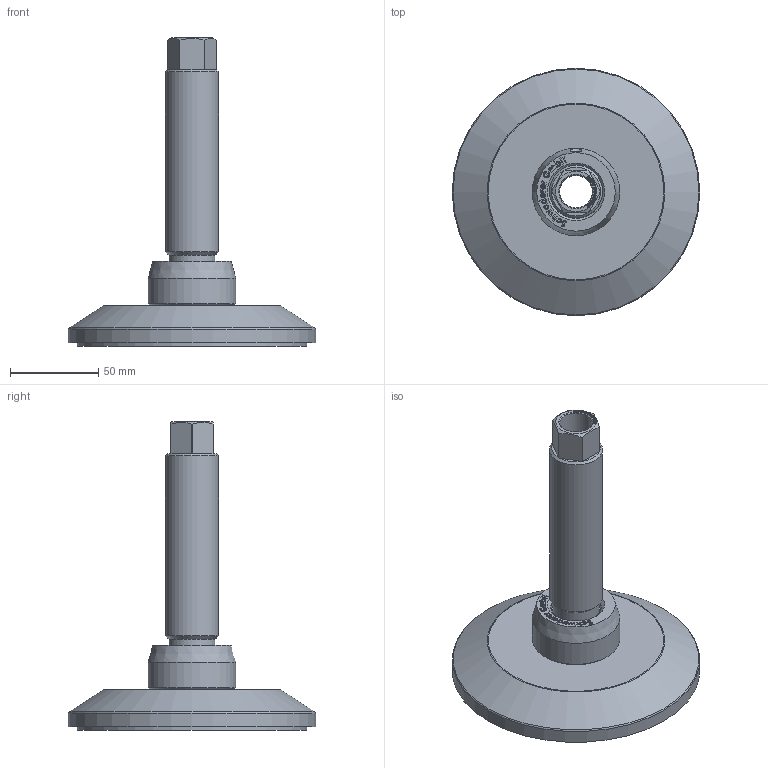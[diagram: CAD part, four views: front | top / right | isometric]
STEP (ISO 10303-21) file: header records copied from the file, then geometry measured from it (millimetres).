
FILE_DESCRIPTION(/* description */ ('JCM 130C - M30 - S6'),/* implementation_level */ '2;1');
FILE_NAME(/* name */ 'P:\CAD ab 2015\STP - Internetseite\JCMHD\JCMHD 130C - S6 - HSD145.stp',/* time_stamp */ '2021-10-01T09:34:11+02:00',/* author */ ('torsten'),/* organization */ ('Schwaderer GmbH Robert-Bosch-Str. 10 71563 Affalterbach'),/* preprocessor_version */ 'ST-DEVELOPER v18.1',/* originating_system */ 'Autodesk Inventor LT',/* authorisation */ '');
FILE_SCHEMA (('CONFIG_CONTROL_DESIGN'));
Length unit declared in the file: millimetre
Products named in the file (1): JCMHD 130C - S6 - HSD110
Bounding box: 140 x 140 x 174.4 mm (x, y, z)
Volume: 375328.4 mm3; surface area: 98678 mm2
Topology: 4 solids, 4 shells, 479 faces, 1302 edges, 871 vertices
Faces by surface type: plane 243, bspline 192, cylinder 23, cone 17, torus 3, sphere 1
Full cylindrical faces by diameter (mm): 5 x1, 18.5 x2, 25 x1, 26 x1, 26.5 x1, 27.5 x1, 28.5 x2, 30 x2, 31 x1, 49.5 x1, 130 x2, 140 x1
Entity records: 16618 total; most frequent: CARTESIAN_POINT 5625, ORIENTED_EDGE 2604, DIRECTION 1597, EDGE_CURVE 1302, VERTEX_POINT 871, LINE 781, VECTOR 781, EDGE_LOOP 529
